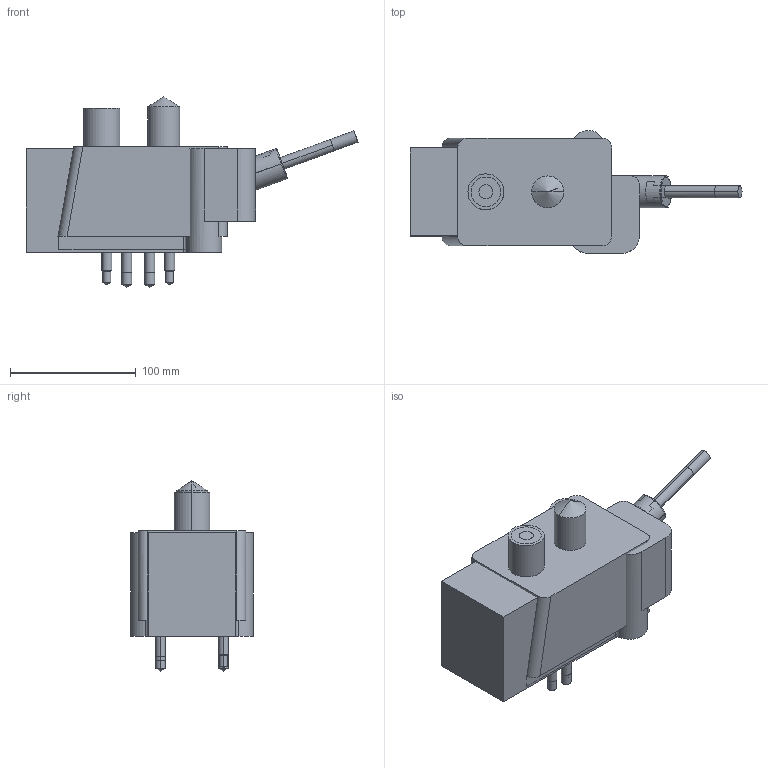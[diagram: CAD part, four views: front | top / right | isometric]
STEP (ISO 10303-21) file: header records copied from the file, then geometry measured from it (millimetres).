
FILE_DESCRIPTION((' '),'2;1');
FILE_NAME( 'EZ-20-P-L.stp', '2023-11-30T09:07:04', (' '), ('--- Datakit www.datakit.com---'), ' Datakit CrossCadWare V2020.4 Oct 21 2020', 'Export from SolidLink (Hexagon Production Software)', ' ');
FILE_SCHEMA(('AP242_MANAGED_MODEL_BASED_3D_ENGINEERING_MIM_LF { 1 0 10303 442 1 1 4 }'));
Length unit declared in the file: millimetre
Products named in the file (126): Workplanes; 1700579288; 1679435622; 1700504680; 1700504761; 1679427781; 1679427782; 1679427783; 1679427784; 1679427785; 1679427804; 1679427811; 1679427815; 1679427817; 1679427821; 1679427822; 1679427823; 1700841732; 1700841834; 1701271342; 1701353568; 1701353569; 1701353570; 1701353571; 1701353572; 1701353573; 1701353574; 1701353575; 1701353576; 1701353577; 1701353578; 1701353579; 1701353580; 1701353581; 1701353582; 1701353583; 1701353584; 1701353585; 1701353586; 1701353587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
Bounding box: 264.27 x 97.75 x 151.64 mm (x, y, z)
Volume: 2602833.6 mm3; surface area: 235474.8 mm2
Topology: 18 solids, 19 shells, 472 faces, 1331 edges, 1114 vertices
Faces by surface type: cylinder 184, plane 166, cone 102, sphere 6, torus 6, bspline 4, revolution 4
Entity records: 21094 total; most frequent: CARTESIAN_POINT 7457, DIRECTION 2737, ORIENTED_EDGE 2204, EDGE_CURVE 1108, AXIS2_PLACEMENT_3D 1079, VERTEX_POINT 708, VECTOR 575, LINE 575
